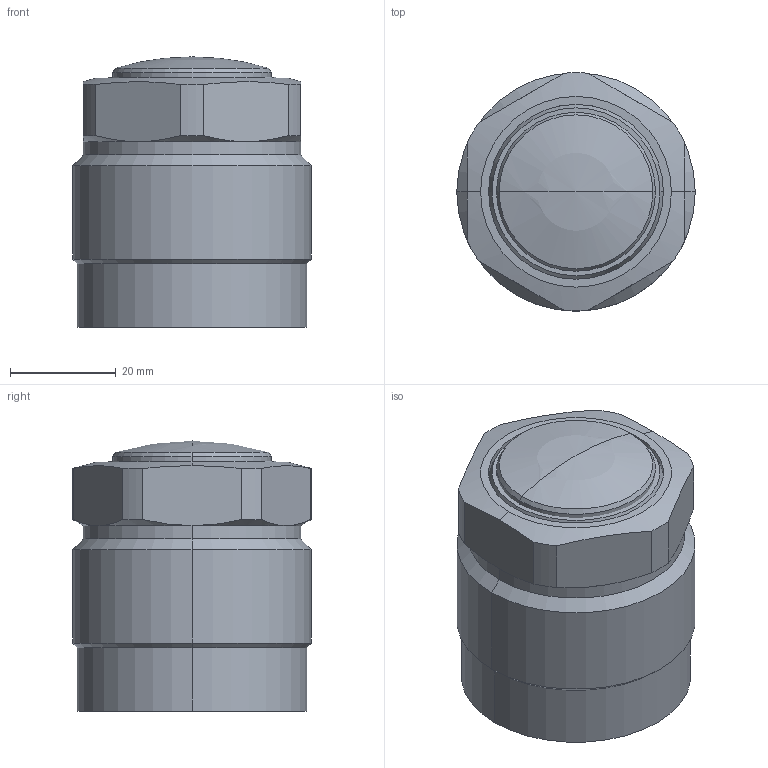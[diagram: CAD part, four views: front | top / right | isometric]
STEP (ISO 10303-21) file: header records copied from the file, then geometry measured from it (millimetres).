
FILE_DESCRIPTION((' '),'2;1');
FILE_NAME( 'TGP45-RS.x_t.stp', '2025-02-10T16:03:56', (' '), ('--- Datakit www.datakit.com---'), ' Datakit CrossCadWare V2024.1 Dec 21 2023', 'Mastercam 2025', ' ');
FILE_SCHEMA(('AUTOMOTIVE_DESIGN { 1 0 10303 214 1 1 1 1 }'));
Length unit declared in the file: millimetre
Products named in the file (1): TGP45-RS
Bounding box: 45 x 45 x 51 mm (x, y, z)
Volume: 77815.4 mm3; surface area: 13204.2 mm2
Topology: 2 solids, 2 shells, 61 faces, 142 edges, 88 vertices
Faces by surface type: cylinder 26, plane 15, cone 14, torus 4, sphere 2
Entity records: 1850 total; most frequent: CARTESIAN_POINT 416, DIRECTION 322, ORIENTED_EDGE 276, AXIS2_PLACEMENT_3D 138, EDGE_CURVE 138, VERTEX_POINT 88, CIRCLE 76, EDGE_LOOP 68
